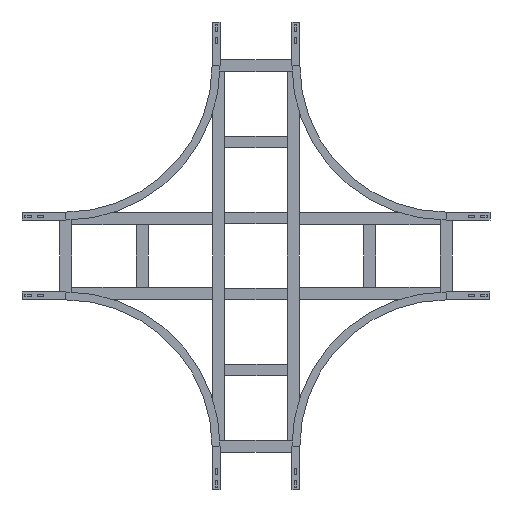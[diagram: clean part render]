
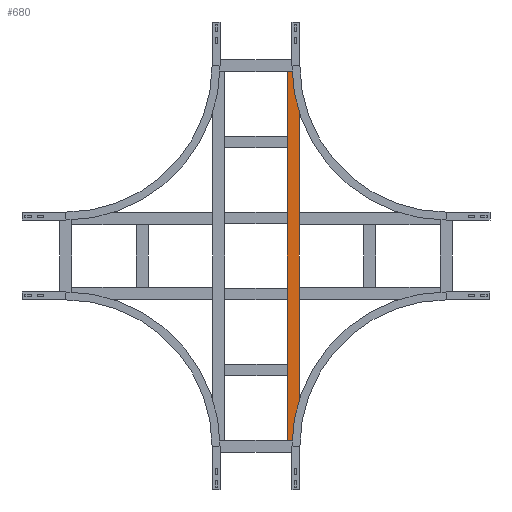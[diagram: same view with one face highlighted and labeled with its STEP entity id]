
A CAD part, front view. The second image highlights one B-rep face of the part: STEP entity #680.
In plain terms, the highlighted planar face has unit normal (0, -1, 0).
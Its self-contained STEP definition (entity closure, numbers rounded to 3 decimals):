
#37 = CARTESIAN_POINT ( 'NONE',  ( -629.75, 0., -20.25 ) ) ;
#307 = CARTESIAN_POINT ( 'NONE',  ( 629.75, 0., -20.25 ) ) ;
#312 = VERTEX_POINT ( 'NONE', #1441 ) ;
#406 = ORIENTED_EDGE ( 'NONE', *, *, #1836, .T. ) ;
#588 = EDGE_CURVE ( 'NONE', #2780, #1136, #1786, .T. ) ;
#615 = VERTEX_POINT ( 'NONE', #37 ) ;
#669 = CARTESIAN_POINT ( 'NONE',  ( -629.75, 0., 20.25 ) ) ;
#680 = ADVANCED_FACE ( 'NONE', ( #2759 ), #701, .F. ) ;
#701 = PLANE ( 'NONE',  #2783 ) ;
#899 = DIRECTION ( 'NONE',  ( 0., 0., -1. ) ) ;
#926 = LINE ( 'NONE', #669, #928 ) ;
#928 = VECTOR ( 'NONE', #1819, 1000. ) ;
#1122 = VECTOR ( 'NONE', #1204, 1000. ) ;
#1136 = VERTEX_POINT ( 'NONE', #2350 ) ;
#1204 = DIRECTION ( 'NONE',  ( -1., 0., 0. ) ) ;
#1303 = DIRECTION ( 'NONE',  ( 0., 0., 1. ) ) ;
#1336 = ORIENTED_EDGE ( 'NONE', *, *, #2628, .F. ) ;
#1441 = CARTESIAN_POINT ( 'NONE',  ( 629.75, 0., -20.25 ) ) ;
#1516 = EDGE_LOOP ( 'NONE', ( #406, #1336, #2798, #1826 ) ) ;
#1609 = CARTESIAN_POINT ( 'NONE',  ( 629.75, 0., 20.25 ) ) ;
#1613 = LINE ( 'NONE', #2060, #2560 ) ;
#1786 = LINE ( 'NONE', #2022, #2825 ) ;
#1819 = DIRECTION ( 'NONE',  ( 0., 0., -1. ) ) ;
#1826 = ORIENTED_EDGE ( 'NONE', *, *, #588, .T. ) ;
#1836 = EDGE_CURVE ( 'NONE', #1136, #615, #926, .T. ) ;
#2022 = CARTESIAN_POINT ( 'NONE',  ( 629.75, 0., 20.25 ) ) ;
#2060 = CARTESIAN_POINT ( 'NONE',  ( 629.75, 0., 20.25 ) ) ;
#2180 = EDGE_CURVE ( 'NONE', #2780, #312, #1613, .T. ) ;
#2350 = CARTESIAN_POINT ( 'NONE',  ( -629.75, 0., 20.25 ) ) ;
#2447 = CARTESIAN_POINT ( 'NONE',  ( 629.75, 0., 20.25 ) ) ;
#2527 = DIRECTION ( 'NONE',  ( 0., 1., 0. ) ) ;
#2560 = VECTOR ( 'NONE', #899, 1000. ) ;
#2628 = EDGE_CURVE ( 'NONE', #312, #615, #2795, .T. ) ;
#2711 = DIRECTION ( 'NONE',  ( -1., 0., 0. ) ) ;
#2759 = FACE_OUTER_BOUND ( 'NONE', #1516, .T. ) ;
#2780 = VERTEX_POINT ( 'NONE', #2447 ) ;
#2783 = AXIS2_PLACEMENT_3D ( 'NONE', #1609, #2527, #1303 ) ;
#2795 = LINE ( 'NONE', #307, #1122 ) ;
#2798 = ORIENTED_EDGE ( 'NONE', *, *, #2180, .F. ) ;
#2825 = VECTOR ( 'NONE', #2711, 1000. ) ;
